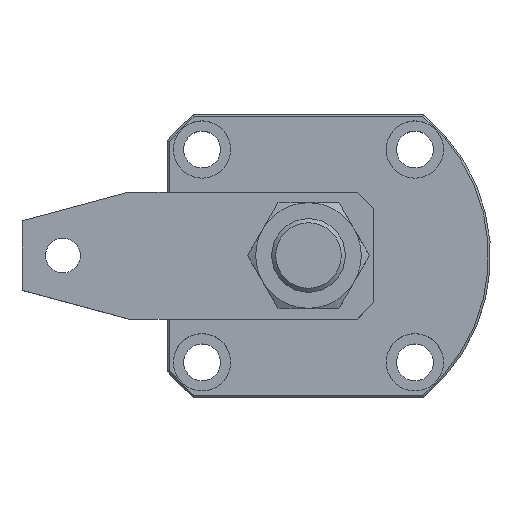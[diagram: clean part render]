
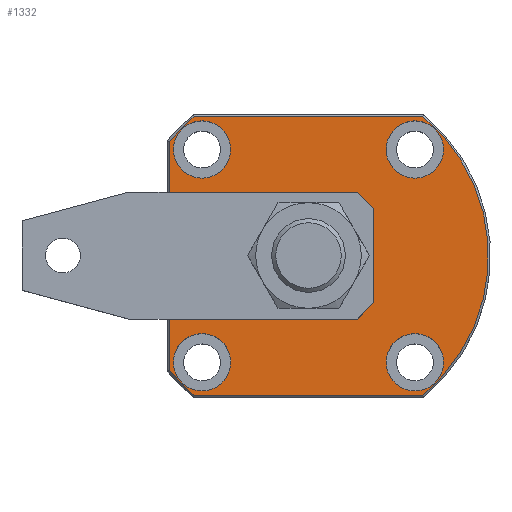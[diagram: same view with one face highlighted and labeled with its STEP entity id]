
A CAD part, top view. The second image highlights one B-rep face of the part: STEP entity #1332.
In plain terms, the highlighted planar face has unit normal (0, 0, 1).
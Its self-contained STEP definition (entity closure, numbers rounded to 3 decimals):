
#103=LINE('',#2430,#151);
#104=LINE('',#2435,#152);
#105=LINE('',#2439,#153);
#151=VECTOR('',#2002,1000.);
#152=VECTOR('',#2005,1000.);
#153=VECTOR('',#2008,1000.);
#199=PLANE('',#1792);
#250=ORIENTED_EDGE('',*,*,#585,.T.);
#251=ORIENTED_EDGE('',*,*,#586,.F.);
#252=ORIENTED_EDGE('',*,*,#587,.F.);
#253=ORIENTED_EDGE('',*,*,#588,.F.);
#254=ORIENTED_EDGE('',*,*,#589,.F.);
#255=ORIENTED_EDGE('',*,*,#590,.F.);
#256=ORIENTED_EDGE('',*,*,#591,.F.);
#257=ORIENTED_EDGE('',*,*,#592,.F.);
#258=ORIENTED_EDGE('',*,*,#593,.F.);
#259=ORIENTED_EDGE('',*,*,#594,.F.);
#260=ORIENTED_EDGE('',*,*,#595,.F.);
#585=EDGE_CURVE('',#753,#753,#879,.T.);
#586=EDGE_CURVE('',#754,#754,#880,.T.);
#587=EDGE_CURVE('',#755,#755,#881,.T.);
#588=EDGE_CURVE('',#756,#756,#882,.T.);
#589=EDGE_CURVE('',#757,#757,#883,.T.);
#590=EDGE_CURVE('',#758,#759,#103,.F.);
#591=EDGE_CURVE('',#760,#758,#884,.T.);
#592=EDGE_CURVE('',#761,#760,#104,.F.);
#593=EDGE_CURVE('',#762,#761,#885,.T.);
#594=EDGE_CURVE('',#763,#762,#105,.F.);
#595=EDGE_CURVE('',#759,#763,#886,.T.);
#753=VERTEX_POINT('',#2421);
#754=VERTEX_POINT('',#2423);
#755=VERTEX_POINT('',#2425);
#756=VERTEX_POINT('',#2427);
#757=VERTEX_POINT('',#2429);
#758=VERTEX_POINT('',#2431);
#759=VERTEX_POINT('',#2432);
#760=VERTEX_POINT('',#2434);
#761=VERTEX_POINT('',#2436);
#762=VERTEX_POINT('',#2438);
#763=VERTEX_POINT('',#2440);
#879=CIRCLE('',#1793,11.2);
#880=CIRCLE('',#1794,7.);
#881=CIRCLE('',#1795,7.);
#882=CIRCLE('',#1796,7.);
#883=CIRCLE('',#1797,7.);
#884=CIRCLE('',#1798,44.);
#885=CIRCLE('',#1799,44.);
#886=CIRCLE('',#1800,44.);
#964=EDGE_LOOP('',(#250));
#965=EDGE_LOOP('',(#251));
#966=EDGE_LOOP('',(#252));
#967=EDGE_LOOP('',(#253));
#968=EDGE_LOOP('',(#254));
#969=EDGE_LOOP('',(#255,#256,#257,#258,#259,#260));
#1134=FACE_BOUND('',#964,.T.);
#1135=FACE_BOUND('',#965,.T.);
#1136=FACE_BOUND('',#966,.T.);
#1137=FACE_BOUND('',#967,.T.);
#1138=FACE_BOUND('',#968,.T.);
#1139=FACE_BOUND('',#969,.T.);
#1332=ADVANCED_FACE('',(#1134,#1135,#1136,#1137,#1138,#1139),#199,.F.);
#1792=AXIS2_PLACEMENT_3D('',#2419,#1990,#1991);
#1793=AXIS2_PLACEMENT_3D('',#2420,#1992,#1993);
#1794=AXIS2_PLACEMENT_3D('',#2422,#1994,#1995);
#1795=AXIS2_PLACEMENT_3D('',#2424,#1996,#1997);
#1796=AXIS2_PLACEMENT_3D('',#2426,#1998,#1999);
#1797=AXIS2_PLACEMENT_3D('',#2428,#2000,#2001);
#1798=AXIS2_PLACEMENT_3D('',#2433,#2003,#2004);
#1799=AXIS2_PLACEMENT_3D('',#2437,#2006,#2007);
#1800=AXIS2_PLACEMENT_3D('',#2441,#2009,#2010);
#1990=DIRECTION('',(0.,0.,-1.));
#1991=DIRECTION('',(0.,1.,0.));
#1992=DIRECTION('',(0.,0.,-1.));
#1993=DIRECTION('',(0.,-1.,0.));
#1994=DIRECTION('',(0.,0.,1.));
#1995=DIRECTION('',(1.,0.,0.));
#1996=DIRECTION('',(0.,0.,1.));
#1997=DIRECTION('',(1.,0.,0.));
#1998=DIRECTION('',(0.,0.,1.));
#1999=DIRECTION('',(1.,0.,0.));
#2000=DIRECTION('',(0.,0.,1.));
#2001=DIRECTION('',(1.,0.,0.));
#2002=DIRECTION('',(-1.,0.,0.));
#2003=DIRECTION('',(0.,0.,-1.));
#2004=DIRECTION('',(0.,1.,0.));
#2005=DIRECTION('',(0.,-1.,0.));
#2006=DIRECTION('',(0.,0.,-1.));
#2007=DIRECTION('',(0.,1.,0.));
#2008=DIRECTION('',(1.,0.,0.));
#2009=DIRECTION('',(0.,0.,-1.));
#2010=DIRECTION('',(0.,1.,0.));
#2419=CARTESIAN_POINT('',(12.75,36.5,16.));
#2420=CARTESIAN_POINT('',(12.75,36.5,16.));
#2421=CARTESIAN_POINT('',(12.75,25.3,16.));
#2422=CARTESIAN_POINT('',(-13.25,10.5,16.));
#2423=CARTESIAN_POINT('',(-6.25,10.5,16.));
#2424=CARTESIAN_POINT('',(38.75,10.5,16.));
#2425=CARTESIAN_POINT('',(45.75,10.5,16.));
#2426=CARTESIAN_POINT('',(-13.25,62.5,16.));
#2427=CARTESIAN_POINT('',(-6.25,62.5,16.));
#2428=CARTESIAN_POINT('',(38.75,62.5,16.));
#2429=CARTESIAN_POINT('',(45.75,62.5,16.));
#2430=CARTESIAN_POINT('',(12.75,70.5,16.));
#2431=CARTESIAN_POINT('',(-15.178,70.5,16.));
#2432=CARTESIAN_POINT('',(40.678,70.5,16.));
#2433=CARTESIAN_POINT('',(12.75,36.5,16.));
#2434=CARTESIAN_POINT('',(-21.25,64.428,16.));
#2435=CARTESIAN_POINT('',(-21.25,36.5,16.));
#2436=CARTESIAN_POINT('',(-21.25,8.572,16.));
#2437=CARTESIAN_POINT('',(12.75,36.5,16.));
#2438=CARTESIAN_POINT('',(-15.178,2.5,16.));
#2439=CARTESIAN_POINT('',(12.75,2.5,16.));
#2440=CARTESIAN_POINT('',(40.678,2.5,16.));
#2441=CARTESIAN_POINT('',(12.75,36.5,16.));
